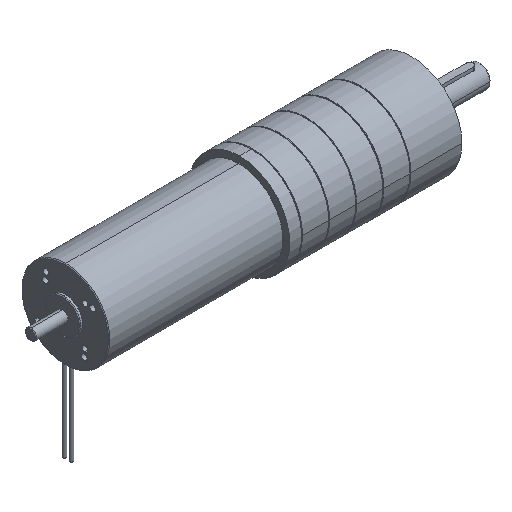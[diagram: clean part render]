
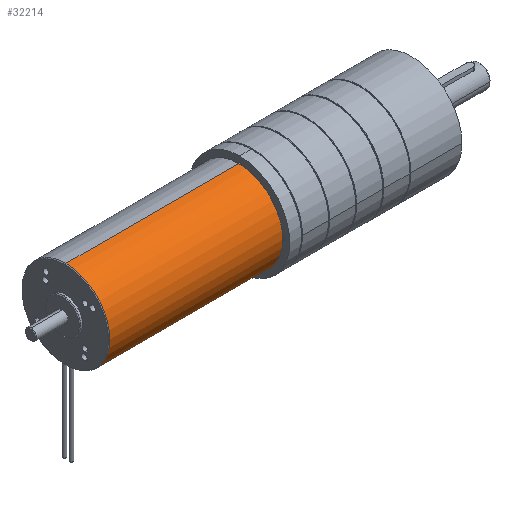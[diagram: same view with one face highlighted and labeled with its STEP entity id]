
A CAD part, isometric view. The second image highlights one B-rep face of the part: STEP entity #32214.
In plain terms, the highlighted cylindrical face has radius 31.5 mm (diameter 63 mm), a partial arc.
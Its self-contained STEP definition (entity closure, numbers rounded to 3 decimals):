
#74 = CARTESIAN_POINT ( 'NONE',  ( 27.769, -1.501, -31.464 ) ) ;
#151 = DIRECTION ( 'NONE',  ( 0., 0., 1. ) ) ;
#543 = CARTESIAN_POINT ( 'NONE',  ( 27.826, -3.441, -31.312 ) ) ;
#567 = CARTESIAN_POINT ( 'NONE',  ( 25.5, 0., 0. ) ) ;
#1929 = CARTESIAN_POINT ( 'NONE',  ( 26., -3.267, -31.33 ) ) ;
#4311 = ORIENTED_EDGE ( 'NONE', *, *, #56159, .T. ) ;
#4462 = EDGE_CURVE ( 'NONE', #18987, #46255, #21065, .T. ) ;
#4549 = ORIENTED_EDGE ( 'NONE', *, *, #34187, .T. ) ;
#6192 = CARTESIAN_POINT ( 'NONE',  ( 27.762, -3.494, -31.306 ) ) ;
#6550 = CARTESIAN_POINT ( 'NONE',  ( 27.164, -3.75, -31.276 ) ) ;
#6908 = CARTESIAN_POINT ( 'NONE',  ( 26.368, -3.591, -31.295 ) ) ;
#8999 = EDGE_LOOP ( 'NONE', ( #4549, #49708 ) ) ;
#9269 = B_SPLINE_CURVE_WITH_KNOTS ( 'NONE', 3,
 ( #33187, #22633, #11509, #12529, #1929, #12874, #6908, #23354, #32838, #6550, #59844, #65013, #44715, #6192, #543, #44009, #49657, #43323, #66041, #54216 ),
 .UNSPECIFIED., .F., .F.,
 ( 4, 2, 2, 2, 2, 2, 2, 2, 2, 4 ),
 ( 0.004, 0.004, 0.005, 0.005, 0.006, 0.006, 0.007, 0.007, 0.007, 0.008 ),
 .UNSPECIFIED. ) ;
#9981 = CARTESIAN_POINT ( 'NONE',  ( 25.814, -2.098, -31.43 ) ) ;
#10677 = CARTESIAN_POINT ( 'NONE',  ( 27.328, -1.283, -31.474 ) ) ;
#11509 = CARTESIAN_POINT ( 'NONE',  ( 25.783, -2.827, -31.373 ) ) ;
#12184 = LINE ( 'NONE', #65705, #53868 ) ;
#12529 = CARTESIAN_POINT ( 'NONE',  ( 25.907, -3.128, -31.345 ) ) ;
#12767 = ORIENTED_EDGE ( 'NONE', *, *, #17639, .F. ) ;
#12874 = CARTESIAN_POINT ( 'NONE',  ( 26.23, -3.498, -31.305 ) ) ;
#15188 = CARTESIAN_POINT ( 'NONE',  ( 27.629, -1.408, -31.469 ) ) ;
#16025 = CARTESIAN_POINT ( 'NONE',  ( -195.728, 0., 31.5 ) ) ;
#17354 = B_SPLINE_CURVE_WITH_KNOTS ( 'NONE', 3,
 ( #47081, #63181, #20763, #35862, #37258, #48139, #42505, #74, #15188, #10677, #25362, #20083, #42159, #62516, #32011, #41470, #57976, #9981, #36907, #58321, #31677, #33418 ),
 .UNSPECIFIED., .F., .F.,
 ( 4, 2, 2, 2, 2, 2, 2, 2, 2, 2, 4 ),
 ( 0., 0., 0.001, 0.001, 0.001, 0.002, 0.002, 0.003, 0.003, 0.004, 0.004 ),
 .UNSPECIFIED. ) ;
#17639 = EDGE_CURVE ( 'NONE', #41238, #46255, #12184, .T. ) ;
#18987 = VERTEX_POINT ( 'NONE', #54382 ) ;
#20083 = CARTESIAN_POINT ( 'NONE',  ( 26.837, -1.25, -31.475 ) ) ;
#20154 = CARTESIAN_POINT ( 'NONE',  ( 25.75, -2.5, -31.401 ) ) ;
#20763 = CARTESIAN_POINT ( 'NONE',  ( 28.218, -2.173, -31.425 ) ) ;
#20958 = EDGE_CURVE ( 'NONE', #41238, #51644, #47715, .T. ) ;
#21065 = CIRCLE ( 'NONE', #45701, 31.5 ) ;
#22502 = ORIENTED_EDGE ( 'NONE', *, *, #4462, .T. ) ;
#22633 = CARTESIAN_POINT ( 'NONE',  ( 25.75, -2.663, -31.388 ) ) ;
#23225 = CARTESIAN_POINT ( 'NONE',  ( 149.5, 0., 31.5 ) ) ;
#23354 = CARTESIAN_POINT ( 'NONE',  ( 26.671, -3.717, -31.28 ) ) ;
#23388 = FACE_BOUND ( 'NONE', #8999, .T. ) ;
#24066 = CYLINDRICAL_SURFACE ( 'NONE', #51759, 31.5 ) ;
#24350 = ORIENTED_EDGE ( 'NONE', *, *, #20958, .T. ) ;
#25362 = CARTESIAN_POINT ( 'NONE',  ( 27.164, -1.25, -31.475 ) ) ;
#26832 = DIRECTION ( 'NONE',  ( -1., 0., 0. ) ) ;
#27554 = DIRECTION ( 'NONE',  ( -1., 0., 0. ) ) ;
#30297 = VERTEX_POINT ( 'NONE', #55011 ) ;
#31059 = DIRECTION ( 'NONE',  ( 0., 0., 1. ) ) ;
#31677 = CARTESIAN_POINT ( 'NONE',  ( 25.75, -2.419, -31.407 ) ) ;
#32011 = CARTESIAN_POINT ( 'NONE',  ( 26.232, -1.5, -31.464 ) ) ;
#32214 = ADVANCED_FACE ( 'NONE', ( #50028, #23388 ), #24066, .T. ) ;
#32838 = CARTESIAN_POINT ( 'NONE',  ( 26.834, -3.75, -31.276 ) ) ;
#33059 = VERTEX_POINT ( 'NONE', #20154 ) ;
#33187 = CARTESIAN_POINT ( 'NONE',  ( 25.75, -2.5, -31.401 ) ) ;
#33418 = CARTESIAN_POINT ( 'NONE',  ( 25.75, -2.5, -31.401 ) ) ;
#34187 = EDGE_CURVE ( 'NONE', #30297, #33059, #17354, .T. ) ;
#35862 = CARTESIAN_POINT ( 'NONE',  ( 28.124, -1.946, -31.44 ) ) ;
#35941 = CARTESIAN_POINT ( 'NONE',  ( -195.728, 0., 0. ) ) ;
#36907 = CARTESIAN_POINT ( 'NONE',  ( 25.79, -2.176, -31.425 ) ) ;
#37258 = CARTESIAN_POINT ( 'NONE',  ( 28.085, -1.875, -31.444 ) ) ;
#38125 = DIRECTION ( 'NONE',  ( 1., 0., 0. ) ) ;
#41238 = VERTEX_POINT ( 'NONE', #61985 ) ;
#41379 = VECTOR ( 'NONE', #41617, 1000. ) ;
#41459 = EDGE_CURVE ( 'NONE', #33059, #30297, #9269, .T. ) ;
#41470 = CARTESIAN_POINT ( 'NONE',  ( 25.999, -1.733, -31.452 ) ) ;
#41617 = DIRECTION ( 'NONE',  ( -1., 0., 0. ) ) ;
#42159 = CARTESIAN_POINT ( 'NONE',  ( 26.673, -1.282, -31.474 ) ) ;
#42505 = CARTESIAN_POINT ( 'NONE',  ( 27.942, -1.674, -31.456 ) ) ;
#43323 = CARTESIAN_POINT ( 'NONE',  ( 28.217, -2.829, -31.373 ) ) ;
#44009 = CARTESIAN_POINT ( 'NONE',  ( 27.999, -3.268, -31.33 ) ) ;
#44048 = DIRECTION ( 'NONE',  ( 0., 0., -1. ) ) ;
#44715 = CARTESIAN_POINT ( 'NONE',  ( 27.626, -3.585, -31.295 ) ) ;
#45701 = AXIS2_PLACEMENT_3D ( 'NONE', #567, #38125, #44048 ) ;
#46255 = VERTEX_POINT ( 'NONE', #61951 ) ;
#47081 = CARTESIAN_POINT ( 'NONE',  ( 28.25, -2.5, -31.401 ) ) ;
#47715 = CIRCLE ( 'NONE', #53333, 31.5 ) ;
#48139 = CARTESIAN_POINT ( 'NONE',  ( 27.995, -1.739, -31.452 ) ) ;
#49657 = CARTESIAN_POINT ( 'NONE',  ( 28.092, -3.129, -31.345 ) ) ;
#49708 = ORIENTED_EDGE ( 'NONE', *, *, #41459, .T. ) ;
#50028 = FACE_OUTER_BOUND ( 'NONE', #63083, .T. ) ;
#51644 = VERTEX_POINT ( 'NONE', #23225 ) ;
#51759 = AXIS2_PLACEMENT_3D ( 'NONE', #35941, #57035, #31059 ) ;
#53180 = LINE ( 'NONE', #16025, #41379 ) ;
#53333 = AXIS2_PLACEMENT_3D ( 'NONE', #53477, #26832, #151 ) ;
#53477 = CARTESIAN_POINT ( 'NONE',  ( 149.5, 0., 0. ) ) ;
#53868 = VECTOR ( 'NONE', #27554, 1000. ) ;
#54216 = CARTESIAN_POINT ( 'NONE',  ( 28.25, -2.5, -31.401 ) ) ;
#54382 = CARTESIAN_POINT ( 'NONE',  ( 25.5, 0., 31.5 ) ) ;
#55011 = CARTESIAN_POINT ( 'NONE',  ( 28.25, -2.5, -31.401 ) ) ;
#56159 = EDGE_CURVE ( 'NONE', #51644, #18987, #53180, .T. ) ;
#57035 = DIRECTION ( 'NONE',  ( -1., 0., 0. ) ) ;
#57976 = CARTESIAN_POINT ( 'NONE',  ( 25.907, -1.871, -31.445 ) ) ;
#58321 = CARTESIAN_POINT ( 'NONE',  ( 25.758, -2.336, -31.413 ) ) ;
#59844 = CARTESIAN_POINT ( 'NONE',  ( 27.327, -3.718, -31.28 ) ) ;
#61951 = CARTESIAN_POINT ( 'NONE',  ( 25.5, 0., -31.5 ) ) ;
#61985 = CARTESIAN_POINT ( 'NONE',  ( 149.5, 0., -31.5 ) ) ;
#62516 = CARTESIAN_POINT ( 'NONE',  ( 26.37, -1.408, -31.469 ) ) ;
#63083 = EDGE_LOOP ( 'NONE', ( #12767, #24350, #4311, #22502 ) ) ;
#63181 = CARTESIAN_POINT ( 'NONE',  ( 28.25, -2.335, -31.414 ) ) ;
#65013 = CARTESIAN_POINT ( 'NONE',  ( 27.554, -3.623, -31.291 ) ) ;
#65705 = CARTESIAN_POINT ( 'NONE',  ( -195.728, 0., -31.5 ) ) ;
#66041 = CARTESIAN_POINT ( 'NONE',  ( 28.25, -2.665, -31.387 ) ) ;
